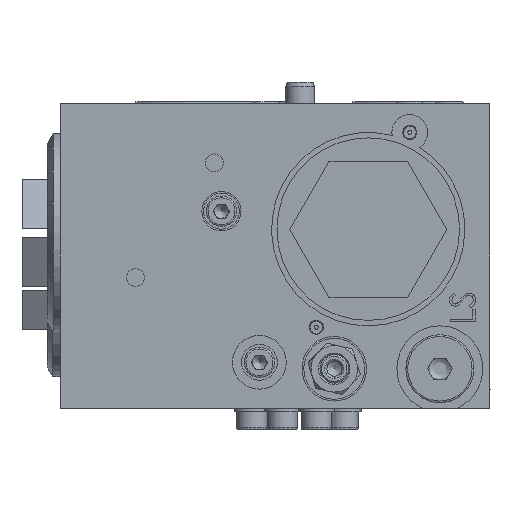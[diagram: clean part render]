
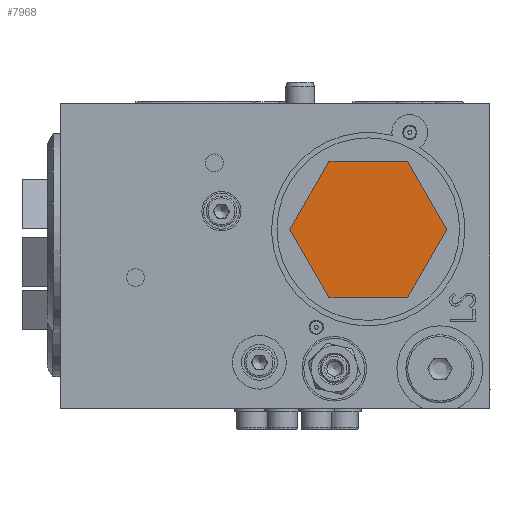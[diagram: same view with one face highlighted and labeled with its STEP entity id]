
A CAD part, left-side view. The second image highlights one B-rep face of the part: STEP entity #7968.
In plain terms, the highlighted planar face has unit normal (-1, 0, 0).
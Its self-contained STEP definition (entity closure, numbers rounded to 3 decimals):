
#432 = DIRECTION ( 'NONE',  ( 0., -0.5, 0.866 ) ) ;
#3185 = VECTOR ( 'NONE', #432, 1000. ) ;
#3548 = DIRECTION ( 'NONE',  ( 0., 0.5, -0.866 ) ) ;
#3897 = VERTEX_POINT ( 'NONE', #21092 ) ;
#4442 = AXIS2_PLACEMENT_3D ( 'NONE', #24819, #12239, #37280 ) ;
#4867 = LINE ( 'NONE', #38636, #20627 ) ;
#5708 = CARTESIAN_POINT ( 'NONE',  ( -54., -21.939, 0. ) ) ;
#5827 = DIRECTION ( 'NONE',  ( 0., 1., 0. ) ) ;
#6979 = EDGE_CURVE ( 'NONE', #30495, #3897, #32139, .T. ) ;
#7286 = EDGE_CURVE ( 'NONE', #40008, #20790, #4867, .T. ) ;
#7968 = ADVANCED_FACE ( 'NONE', ( #27874 ), #31541, .T. ) ;
#8719 = EDGE_LOOP ( 'NONE', ( #27016, #20848, #21747, #32511, #22360, #20453 ) ) ;
#12239 = DIRECTION ( 'NONE',  ( -1., 0., 0. ) ) ;
#14882 = LINE ( 'NONE', #37260, #18752 ) ;
#15532 = CARTESIAN_POINT ( 'NONE',  ( -54., 10.97, 19. ) ) ;
#15856 = LINE ( 'NONE', #16649, #3185 ) ;
#16107 = EDGE_CURVE ( 'NONE', #23101, #30495, #22067, .T. ) ;
#16649 = CARTESIAN_POINT ( 'NONE',  ( -54., -10.97, -19. ) ) ;
#17601 = CARTESIAN_POINT ( 'NONE',  ( -54., 10.97, -19. ) ) ;
#18249 = VECTOR ( 'NONE', #39496, 1000. ) ;
#18428 = CARTESIAN_POINT ( 'NONE',  ( -54., -10.97, 19. ) ) ;
#18752 = VECTOR ( 'NONE', #27266, 1000. ) ;
#20453 = ORIENTED_EDGE ( 'NONE', *, *, #6979, .T. ) ;
#20627 = VECTOR ( 'NONE', #25959, 1000. ) ;
#20790 = VERTEX_POINT ( 'NONE', #38850 ) ;
#20848 = ORIENTED_EDGE ( 'NONE', *, *, #7286, .T. ) ;
#21092 = CARTESIAN_POINT ( 'NONE',  ( -54., 21.939, 0. ) ) ;
#21589 = CARTESIAN_POINT ( 'NONE',  ( -54., -21.939, 0. ) ) ;
#21747 = ORIENTED_EDGE ( 'NONE', *, *, #23564, .T. ) ;
#22067 = LINE ( 'NONE', #18428, #27318 ) ;
#22360 = ORIENTED_EDGE ( 'NONE', *, *, #16107, .T. ) ;
#23101 = VERTEX_POINT ( 'NONE', #34025 ) ;
#23427 = EDGE_CURVE ( 'NONE', #3897, #40008, #14882, .T. ) ;
#23564 = EDGE_CURVE ( 'NONE', #20790, #27479, #15856, .T. ) ;
#24166 = LINE ( 'NONE', #5708, #18249 ) ;
#24819 = CARTESIAN_POINT ( 'NONE',  ( -54., 0., 0. ) ) ;
#25127 = VECTOR ( 'NONE', #3548, 1000. ) ;
#25959 = DIRECTION ( 'NONE',  ( 0., -1., 0. ) ) ;
#26598 = EDGE_CURVE ( 'NONE', #27479, #23101, #24166, .T. ) ;
#27016 = ORIENTED_EDGE ( 'NONE', *, *, #23427, .T. ) ;
#27110 = CARTESIAN_POINT ( 'NONE',  ( -54., 10.97, 19. ) ) ;
#27266 = DIRECTION ( 'NONE',  ( 0., -0.5, -0.866 ) ) ;
#27318 = VECTOR ( 'NONE', #5827, 1000. ) ;
#27479 = VERTEX_POINT ( 'NONE', #21589 ) ;
#27874 = FACE_OUTER_BOUND ( 'NONE', #8719, .T. ) ;
#30495 = VERTEX_POINT ( 'NONE', #27110 ) ;
#31541 = PLANE ( 'NONE',  #4442 ) ;
#32139 = LINE ( 'NONE', #15532, #25127 ) ;
#32511 = ORIENTED_EDGE ( 'NONE', *, *, #26598, .T. ) ;
#34025 = CARTESIAN_POINT ( 'NONE',  ( -54., -10.97, 19. ) ) ;
#37260 = CARTESIAN_POINT ( 'NONE',  ( -54., 21.939, 0. ) ) ;
#37280 = DIRECTION ( 'NONE',  ( 0., -1., 0. ) ) ;
#38636 = CARTESIAN_POINT ( 'NONE',  ( -54., 10.97, -19. ) ) ;
#38850 = CARTESIAN_POINT ( 'NONE',  ( -54., -10.97, -19. ) ) ;
#39496 = DIRECTION ( 'NONE',  ( 0., 0.5, 0.866 ) ) ;
#40008 = VERTEX_POINT ( 'NONE', #17601 ) ;
